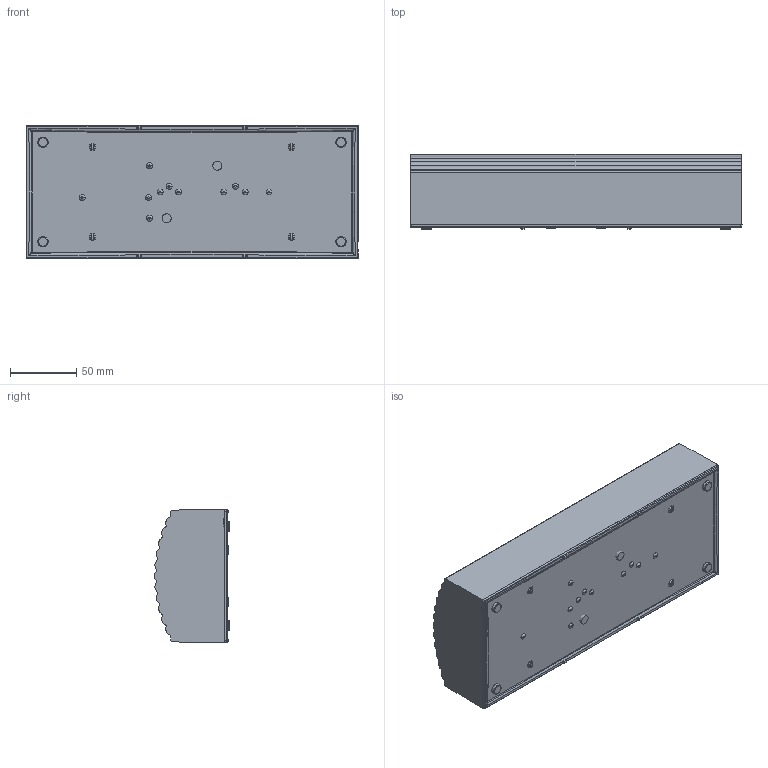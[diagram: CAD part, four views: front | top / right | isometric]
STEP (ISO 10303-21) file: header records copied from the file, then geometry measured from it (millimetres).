
FILE_DESCRIPTION((''),'2;1');
FILE_NAME('ART_R','2026-05-22T09:40:22',('Piccioli'),(''),'CREO PARAMETRIC BY PTC INC, 2025010','CREO PARAMETRIC BY PTC INC, 2025010','');
FILE_SCHEMA(('CONFIG_CONTROL_DESIGN'));
Length unit declared in the file: millimetre
Products named in the file (1): ART_R
Bounding box: 250 x 56.5 x 100 mm (x, y, z)
Surface area: 85294.6 mm2 (no closed solid volume)
Topology: 0 solids, 23 shells, 239 faces, 656 edges, 436 vertices
Faces by surface type: bspline 70, cylinder 59, plane 42, sphere 36, torus 16, cone 16
Entity records: 11357 total; most frequent: CARTESIAN_POINT 5831, DIRECTION 1146, ORIENTED_EDGE 1042, EDGE_CURVE 656, AXIS2_PLACEMENT_3D 489, VERTEX_POINT 436, CIRCLE 320, EDGE_LOOP 239
